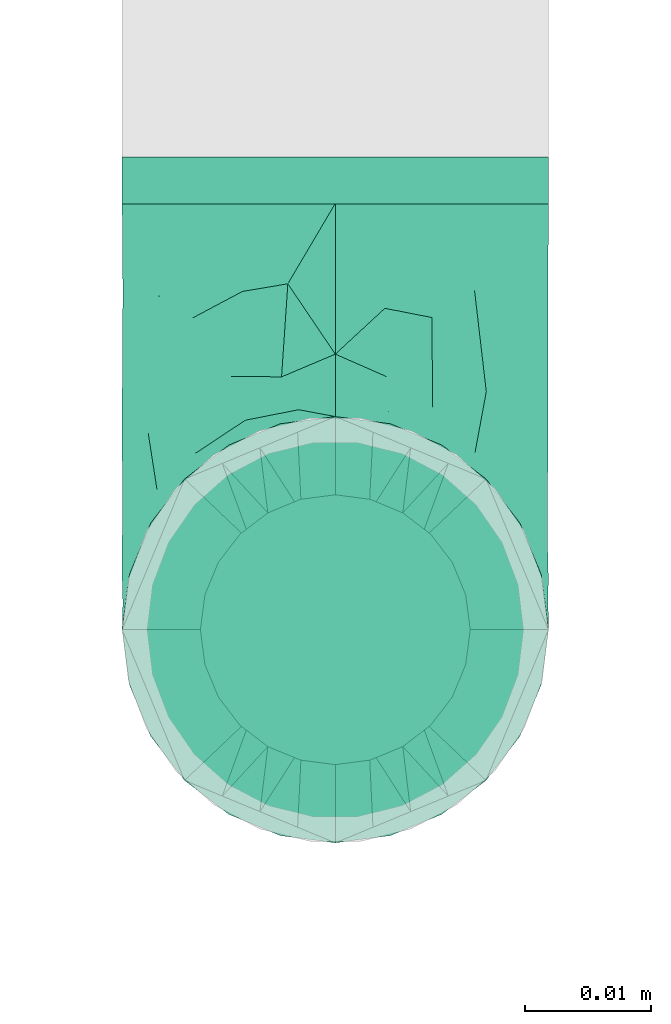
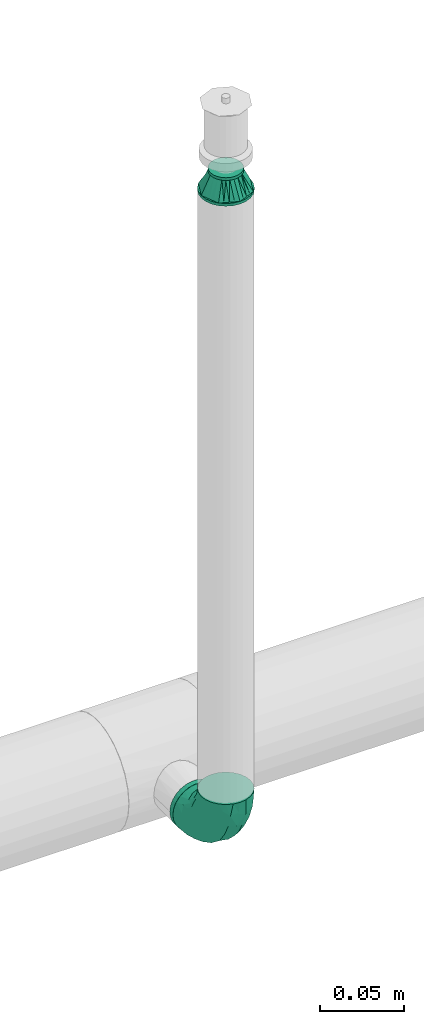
# One storey, part 112 of 157: 2 flow fittings, 1 flow segment.
"""IFC2X3 building model written with IfcOpenShell, lengths in millimetres."""

from ifc_helpers import new_model, entity, si_unit, converted_unit, derived_unit, direction, frame, origin_with_axes, origin_2d_with_axis, place, context, subcontext, project, spatial, hollow_circle, extrude, open_shell, surface_model, source, transform, mapped, type_object, element, save


model = new_model("IFC2X3")

# Units and contexts
model_context = context("Model", 3, precision=0.01, world=frame((0.0, 4.29681676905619e-09, 0.0)), true_north=direction((4.01073788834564e-13, 1.0)))
plan_context = context("Plan", 3, precision=0.01, world=frame((0.0, 4.29681676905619e-09, 0.0)), true_north=direction((4.01073788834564e-13, 1.0)))
body_context = subcontext(model_context, "Body", "Model", "MODEL_VIEW")
ifc_project = project(units=[converted_unit("PLANEANGLEUNIT", "DEGREE", entity("IfcPositiveLengthMeasure", 0.0174532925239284), si_unit("PLANEANGLEUNIT", "RADIAN"), dimensions=[0, 0, 0, 0, 0, 0, 0]), si_unit("AREAUNIT", "SQUARE_METRE"), si_unit("LENGTHUNIT", "METRE", prefix="MILLI"), si_unit("MASSUNIT", "GRAM", prefix="KILO"), si_unit("POWERUNIT", "WATT"), si_unit("PRESSUREUNIT", "PASCAL"), si_unit("FORCEUNIT", "NEWTON", prefix="KILO"), si_unit("ELECTRICCURRENTUNIT", "AMPERE"), si_unit("THERMODYNAMICTEMPERATUREUNIT", "DEGREE_CELSIUS"), si_unit("TIMEUNIT", "SECOND"), si_unit("VOLUMEUNIT", "CUBIC_METRE"), derived_unit("LINEARVELOCITYUNIT", [(si_unit("LENGTHUNIT", "METRE"), 1), (si_unit("TIMEUNIT", "SECOND"), -1)]), derived_unit("VOLUMETRICFLOWRATEUNIT", [(si_unit("VOLUMEUNIT", "CUBIC_METRE"), 1), (si_unit("TIMEUNIT", "SECOND"), -1)]), derived_unit("THERMALTRANSMITTANCEUNIT", [(si_unit("POWERUNIT", "WATT"), 1), (si_unit("THERMODYNAMICTEMPERATUREUNIT", "KELVIN"), -1), (si_unit("AREAUNIT", "SQUARE_METRE"), -1)])], contexts=[model_context, plan_context])

# Site, building, storey
site_placement = place(None, frame((0.0, -4.29681676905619e-09, 0.0), z_axis=(0.0, 0.0, 1.0), x_axis=(1.0, 0.0, 0.0)))
site = spatial("IfcSite", under=ifc_project, at=site_placement, CompositionType="ELEMENT")
building_placement = place(site_placement, frame((0.0, 4.29681676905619e-09, 0.0), z_axis=(0.0, 0.0, 1.0), x_axis=(1.0, 0.0, 0.0)))
building = spatial("IfcBuilding", under=site, at=building_placement, Name="mc-building", CompositionType="ELEMENT")
storey_placement = place(building_placement, frame((0.0, 0.0, 204000.0), z_axis=(0.0, 0.0, 1.0), x_axis=(1.0, 0.0, 0.0)))
storey = spatial("IfcBuildingStorey", under=building, at=storey_placement, Name="Nivå D", CompositionType="ELEMENT", Elevation=204000.0)

# Flow fittings
pipe_fitting_type_1 = type_object("IfcPipeFittingType", Name="magi_pipe_fe_elbow_short_001", PredefinedType="BEND")
shared_shape_1 = source(origin_with_axes(), body_context, "Body", "SurfaceModel", [
    surface_model("IfcShellBasedSurfaceModel", [(-33.8, 8.45, -14.63583), (-33.8, 4.37404, -16.32415), (-33.8, 11.9501, -11.9501), (-33.8, -11.9501, -11.9501), (-33.8, -14.63583, -8.45), (-33.8, -8.45, -14.63583), (-33.8, 0.0, -16.9), (-33.8, -4.37404, -16.32415), (-33.8, -4.37404, 16.32415), (-33.8, 0.0, 16.9), (-33.8, -8.45, 14.63583), (-33.8, 16.32415, -4.37404), (-33.8, 14.63583, -8.45), (-33.8, -16.32415, -4.37404), (-33.8, -16.9, 0.0), (-33.8, -16.32415, 4.37404), (-33.8, 11.9501, 11.9501), (-33.8, 14.63583, 8.45), (-33.8, 16.32415, 4.37404), (-33.8, 4.37404, 16.32415), (-33.8, 8.45, 14.63583), (-33.8, -14.63583, 8.45), (-33.8, -11.9501, 11.9501), (-33.8, 16.9, 0.0), (-11.9501, 33.8, -11.9501), (0.0, 33.8, -16.9), (-4.37404, 33.8, -16.32415), (-8.45, 33.8, -14.63583), (-14.63583, 33.8, -8.45), (-16.32415, 33.8, -4.37404), (14.63583, 33.8, -8.45), (8.45, 33.8, 14.63583), (16.32415, 33.8, -4.37404), (8.45, 33.8, -14.63583), (11.9501, 33.8, -11.9501), (4.37404, 33.8, -16.32415), (16.32415, 33.8, 4.37404), (16.9, 33.8, 0.0), (-11.9501, 33.8, 11.9501), (-16.32415, 33.8, 4.37404), (-14.63583, 33.8, 8.45), (-8.45, 33.8, 14.63583), (-4.37404, 33.8, 16.32415), (11.9501, 33.8, 11.9501), (14.63583, 33.8, 8.45), (0.0, 33.8, 16.9), (4.37404, 33.8, 16.32415), (-16.9, 33.8, 0.0), (-24.79389, -13.12945, 9.48721), (-22.19287, -9.75018, 12.59315), (-24.09897, -14.97035, 0.0), (-14.93934, -10.76256, 8.5297), (-22.46095, -14.75051, 5.27077), (14.75051, 22.46094, 5.27077), (11.9251, 13.23888, 4.33236), (13.04069, 14.39795, 0.0), (7.71387, 13.68847, 11.55891), (9.75018, 22.19287, 12.59315), (4.10169, 13.0571, 14.04018), (-24.84007, -6.39063, 15.2048), (-25.81779, -2.23879, 16.61097), (-23.66549, 2.59054, 16.87119), (-26.50418, 14.06512, 11.08152), (-24.21253, 17.66365, 7.72657), (-29.58514, 15.86957, 7.00283), (-6.17382, -7.5455, 0.0), (-13.23888, -11.9251, 4.33236), (-14.39795, -13.04069, 0.0), (-17.81434, 18.87373, 11.97104), (-6.30846, 29.15138, 15.82987), (-2.31622, 25.28002, 16.85849), (-29.23923, 10.23435, 13.77053), (-1.45439, -2.85688, 7.61475), (-0.28326, 0.34872, 10.09509), (-5.74484, -4.04709, 10.4122), (-4.41137, 11.31918, 16.59407), (-8.39727, 3.10034, 15.7812), (-1.72649, 9.1306, 15.53089), (-17.39909, 24.75344, 7.64977), (-26.19233, 20.0512, 0.0), (-28.14518, 17.29657, 4.25857), (-26.05147, 6.6281, 15.96447), (-5.87354, 16.61944, 16.86968), (-12.51807, 12.51807, 16.48937), (-10.06312, 7.38516, 16.81295), (-3.01882, 3.01882, 13.81718), (-13.0571, -4.10169, 14.04018), (-16.82553, -0.15166, 16.38038), (10.76256, 14.93934, 8.5297), (13.12945, 24.79389, 9.48721), (6.39063, 24.84007, 15.2048), (2.23879, 25.81779, 16.61097), (-13.68847, -7.71387, 11.55891), (14.97035, 24.09897, 0.0), (-7.30894, 22.89991, 16.09489), (-10.67958, 26.17414, 14.008), (-12.78295, 18.26924, 15.06066), (-13.88562, 22.45231, 12.93244), (-18.04944, 15.16501, 14.04434), (-23.11658, 20.08178, 4.02986), (-21.84989, 21.84989, 0.0), (-18.55817, 25.48277, 3.93065), (-13.95142, 26.94732, 11.03289), (-18.57098, 7.23906, 16.59756), (-16.58335, 4.14122, 16.89279), (-17.96666, 11.46709, 15.63151), (-9.84453, 17.54304, 16.18938), (0.15166, 16.82553, 16.38038), (-23.27207, 11.47201, 14.23154), (3.84842, 5.86994, 10.70473), (-8.0212, -7.54413, 7.93275), (1.00345, -2.19508, 4.57414), (5.13203, 3.01004, 5.90201), (5.24161, 1.7543, 2.53265), (8.70457, 7.04947, 3.99182), (-20.0512, 26.19233, 0.0), (8.4852, 8.76699, 7.09296), (-4.55488, -6.72064, 4.90681), (2.05031, -2.05031, 0.0), (7.5455, 6.17382, 0.0), (-26.75399, 2.1369, -16.845), (-14.61995, 24.73803, -11.27736), (-28.45274, -13.45335, -9.81895), (-26.00469, 6.63555, -15.96645), (-23.06726, 20.04573, -4.26202), (-13.80647, -4.26506, -14.17873), (-14.67501, -0.21081, -16.07388), (-6.7902, -0.2828, -13.8478), (-24.53586, 11.08096, -14.13417), (-26.72048, 14.00837, -11.05776), (10.0967, 24.44989, -12.75976), (5.83237, 21.40218, -15.03047), (6.66249, 28.54238, -15.38093), (-20.38182, 15.48705, -12.74596), (12.53268, 21.23441, -9.15363), (12.54494, 15.67504, -5.54878), (9.7522, 12.89279, -8.66343), (-15.65186, 19.64213, -13.01327), (-12.03528, 20.66498, -14.67665), (-15.61907, 15.61906, -14.83879), (-25.56551, -15.26206, 0.0), (-24.65452, -15.12934, -5.50955), (13.45335, 28.45274, -9.81895), (15.12934, 24.65452, -5.50955), (-7.35442, -8.31014, -5.65563), (-15.67504, -12.54494, -5.54878), (-24.44989, -10.0967, -12.75976), (0.16522, 0.41303, -9.71728), (-5.70658, -5.33066, -8.89288), (-5.13869, -2.37198, -11.53565), (-21.23441, -12.53268, -9.15363), (0.71146, 7.93863, -14.09382), (0.21081, 14.67501, -16.07388), (3.49291, 14.42772, -14.76381), (-24.89911, -2.13088, -16.591), (-28.54238, -6.66249, -15.38093), (-18.44386, -7.71663, -13.26957), (2.13088, 24.89911, -16.591), (-28.64342, 17.44413, -2.89318), (1.70017, -1.28722, -5.09504), (-16.57067, 26.81947, -7.36596), (-17.69055, 27.4263, -3.76405), (-12.89279, -9.7522, -8.66343), (-5.96611, 5.96611, -15.95814), (-20.53709, 20.09345, -8.28985), (-2.1369, 26.75399, -16.845), (-6.89872, 24.58781, -16.02578), (-10.60739, 26.53157, -13.98044), (-21.40218, -5.83237, -15.03047), (2.93192, 5.89627, -11.55917), (6.89393, 12.61842, -11.82233), (5.58056, 5.95325, -8.79455), (-3.99512, 18.61798, -16.89635), (8.31014, 7.35442, -5.65563), (-9.1383, 9.86148, -16.89041), (-9.99983, 16.02119, -16.39699), (-16.68576, 9.78031, -16.34199), (-27.01915, 16.61158, -7.12979), (15.26206, 25.56551, 0.0), (-18.61798, 3.99512, -16.89635), (-19.37495, 27.82495, 0.0), (-12.61842, -6.89393, -11.82233), (-18.84705, 19.14018, -10.96545)], [open_shell([[[0, 1, 2]], [[3, 4, 5]], [[6, 7, 5]], [[8, 9, 10]], [[1, 6, 2]], [[11, 12, 2]], [[4, 2, 6]], [[2, 13, 10]], [[5, 4, 6]], [[2, 4, 13]], [[14, 15, 13]], [[11, 2, 16]], [[11, 17, 18]], [[11, 16, 17]], [[19, 20, 16]], [[16, 2, 10]], [[19, 16, 10]], [[21, 22, 15]], [[22, 13, 15]], [[22, 10, 13]], [[10, 9, 19]], [[11, 18, 23]], [[24, 25, 26]], [[24, 26, 27]], [[24, 28, 29]], [[25, 24, 30]], [[31, 32, 24]], [[33, 30, 34]], [[33, 35, 25]], [[25, 30, 33]], [[32, 30, 24]], [[32, 36, 37]], [[38, 24, 29]], [[39, 40, 29]], [[40, 38, 29]], [[38, 41, 42]], [[38, 31, 24]], [[31, 38, 42]], [[36, 43, 44]], [[36, 32, 43]], [[31, 45, 46]], [[32, 31, 43]], [[42, 45, 31]], [[39, 29, 47]], [[22, 48, 49]], [[15, 14, 50]], [[51, 48, 52]], [[53, 54, 55]], [[48, 22, 21]], [[15, 52, 21]], [[56, 57, 58]], [[49, 10, 22]], [[49, 59, 10]], [[9, 60, 61]], [[62, 63, 64]], [[65, 66, 67]], [[57, 43, 31]], [[62, 68, 63]], [[42, 69, 70]], [[20, 71, 16]], [[8, 60, 9]], [[72, 73, 74]], [[75, 76, 77]], [[16, 62, 17]], [[40, 39, 78]], [[79, 23, 80]], [[64, 18, 17]], [[9, 61, 19]], [[19, 81, 20]], [[82, 83, 84]], [[74, 85, 86]], [[59, 86, 87]], [[88, 89, 57]], [[90, 31, 46]], [[44, 53, 36]], [[46, 45, 91]], [[54, 53, 88]], [[44, 89, 53]], [[92, 86, 49]], [[89, 44, 43]], [[10, 59, 8]], [[53, 55, 93]], [[93, 36, 53]], [[66, 52, 67]], [[94, 82, 70]], [[95, 96, 94]], [[97, 98, 96]], [[79, 99, 100]], [[41, 38, 95]], [[101, 100, 99]], [[68, 78, 63]], [[42, 41, 69]], [[23, 18, 80]], [[95, 94, 69]], [[78, 101, 99]], [[38, 102, 95]], [[70, 45, 42]], [[97, 95, 102]], [[15, 50, 52]], [[90, 57, 31]], [[57, 90, 58]], [[81, 19, 61]], [[103, 104, 84]], [[105, 81, 103]], [[38, 40, 102]], [[106, 96, 83]], [[94, 106, 82]], [[91, 70, 107]], [[71, 62, 16]], [[62, 108, 98]], [[86, 59, 49]], [[67, 52, 50]], [[60, 59, 87]], [[92, 49, 51]], [[86, 85, 76]], [[91, 90, 46]], [[37, 36, 93]], [[107, 77, 58]], [[107, 58, 90]], [[58, 85, 109]], [[110, 74, 92]], [[72, 74, 110]], [[66, 51, 52]], [[72, 111, 112]], [[113, 114, 112]], [[56, 88, 57]], [[52, 48, 21]], [[49, 48, 51]], [[57, 89, 43]], [[53, 89, 88]], [[103, 81, 61]], [[71, 81, 108]], [[18, 64, 80]], [[63, 78, 99]], [[47, 115, 101]], [[101, 115, 100]], [[40, 78, 102]], [[68, 102, 78]], [[97, 96, 95]], [[105, 98, 108]], [[103, 84, 83]], [[107, 70, 82]], [[76, 84, 87]], [[82, 84, 75]], [[70, 91, 45]], [[90, 91, 107]], [[59, 60, 8]], [[61, 60, 87]], [[73, 85, 74]], [[109, 112, 116]], [[103, 61, 104]], [[105, 103, 83]], [[96, 105, 83]], [[81, 105, 108]], [[96, 98, 105]], [[62, 98, 68]], [[61, 87, 104]], [[87, 84, 104]], [[86, 76, 87]], [[77, 76, 85]], [[58, 77, 85]], [[75, 77, 107]], [[82, 75, 107]], [[76, 75, 84]], [[81, 71, 20]], [[62, 71, 108]], [[95, 69, 41]], [[70, 69, 94]], [[62, 64, 17]], [[80, 63, 99]], [[63, 80, 64]], [[80, 99, 79]], [[66, 65, 117]], [[110, 66, 117]], [[112, 114, 116]], [[118, 117, 65]], [[110, 92, 51]], [[112, 111, 113]], [[119, 55, 54]], [[74, 86, 92]], [[58, 109, 56]], [[116, 56, 109]], [[66, 110, 51]], [[72, 110, 117]], [[111, 72, 117]], [[73, 112, 109]], [[117, 118, 111]], [[113, 111, 118]], [[118, 119, 113]], [[114, 119, 54]], [[119, 114, 113]], [[116, 54, 88]], [[54, 116, 114]], [[116, 88, 56]], [[112, 73, 72]], [[85, 73, 109]], [[78, 39, 101]], [[47, 101, 39]], [[102, 68, 97]], [[97, 68, 98]], [[82, 106, 83]], [[94, 96, 106]], [[1, 120, 6]], [[28, 24, 121]], [[3, 122, 4]], [[0, 123, 1]], [[100, 124, 79]], [[125, 126, 127]], [[128, 2, 129]], [[130, 131, 132]], [[128, 129, 133]], [[134, 135, 136]], [[137, 138, 139]], [[128, 0, 2]], [[67, 140, 141]], [[134, 142, 143]], [[141, 13, 4]], [[144, 65, 145]], [[146, 3, 5]], [[147, 148, 149]], [[145, 141, 150]], [[151, 152, 153]], [[154, 7, 6]], [[5, 155, 146]], [[150, 146, 156]], [[155, 5, 7]], [[143, 135, 134]], [[35, 157, 25]], [[23, 79, 158]], [[148, 159, 144]], [[160, 161, 29]], [[145, 162, 144]], [[163, 152, 151]], [[29, 28, 160]], [[121, 164, 160]], [[33, 34, 130]], [[25, 165, 26]], [[26, 165, 166]], [[142, 34, 30]], [[24, 27, 167]], [[124, 161, 164]], [[157, 35, 132]], [[155, 154, 168]], [[123, 0, 128]], [[169, 170, 171]], [[172, 157, 152]], [[26, 166, 27]], [[132, 35, 33]], [[142, 130, 34]], [[168, 154, 126]], [[136, 135, 173]], [[133, 137, 139]], [[2, 12, 129]], [[170, 131, 130]], [[30, 32, 143]], [[172, 174, 175]], [[176, 123, 128]], [[158, 177, 11]], [[135, 55, 119]], [[167, 27, 166]], [[175, 166, 172]], [[137, 167, 138]], [[122, 141, 4]], [[140, 14, 13]], [[32, 37, 178]], [[170, 130, 134]], [[152, 157, 131]], [[165, 157, 172]], [[153, 170, 151]], [[152, 163, 174]], [[168, 125, 156]], [[122, 146, 150]], [[120, 154, 6]], [[179, 174, 126]], [[179, 126, 154]], [[126, 163, 127]], [[162, 145, 150]], [[140, 13, 141]], [[32, 178, 143]], [[55, 143, 178]], [[177, 129, 12]], [[128, 133, 139]], [[176, 128, 139]], [[120, 123, 179]], [[121, 160, 28]], [[161, 100, 180]], [[166, 175, 138]], [[121, 24, 167]], [[161, 47, 29]], [[79, 124, 158]], [[124, 164, 177]], [[161, 124, 100]], [[136, 171, 170]], [[127, 163, 151]], [[147, 171, 159]], [[148, 144, 162]], [[127, 151, 169]], [[127, 181, 125]], [[129, 177, 164]], [[12, 11, 177]], [[159, 65, 144]], [[67, 141, 145]], [[143, 55, 135]], [[135, 119, 173]], [[123, 120, 1]], [[154, 120, 179]], [[157, 165, 25]], [[166, 165, 172]], [[172, 152, 174]], [[176, 139, 175]], [[126, 174, 163]], [[176, 174, 179]], [[174, 176, 175]], [[123, 176, 179]], [[150, 181, 162]], [[127, 149, 181]], [[181, 148, 162]], [[159, 148, 147]], [[171, 136, 173]], [[170, 134, 136]], [[159, 171, 173]], [[171, 147, 169]], [[169, 147, 149]], [[151, 170, 169]], [[164, 182, 129]], [[182, 121, 137]], [[181, 149, 148]], [[169, 149, 127]], [[182, 137, 133]], [[167, 137, 121]], [[166, 138, 167]], [[175, 139, 138]], [[129, 182, 133]], [[121, 182, 164]], [[161, 160, 164]], [[47, 161, 180]], [[177, 158, 124]], [[23, 158, 11]], [[130, 132, 33]], [[157, 132, 131]], [[143, 142, 30]], [[130, 142, 134]], [[154, 155, 7]], [[146, 155, 168]], [[146, 122, 3]], [[141, 122, 150]], [[152, 131, 153]], [[159, 119, 118]], [[67, 145, 65]], [[170, 153, 131]], [[119, 159, 173]], [[159, 118, 65]], [[156, 125, 181]], [[126, 125, 168]], [[150, 156, 181]], [[168, 156, 146]]])]),
])
flow_fitting_1_placement = place(storey_placement, frame((526440.35, 413944.735, 2690.0), z_axis=(1.0, 0.0, 0.0), x_axis=(0.0, 0.0, -1.0)))
element("IfcFlowFitting", 1, at=flow_fitting_1_placement, inside=storey, type_object=pipe_fitting_type_1, Name="magi_pipe_fe_elbow_short_001", context=body_context, shape_type="MappedRepresentation", body=[
    mapped(shared_shape_1, transform((0.0, 0.0, 0.0), scale=1.0)),
])
pipe_fitting_type_2 = type_object("IfcPipeFittingType", Name="magi_pipe_fe_reducer_centric_short_NOR", PredefinedType="TRANSITION")
shared_shape_2 = source(origin_with_axes(), body_context, "Body", "SurfaceModel", [
    surface_model("IfcShellBasedSurfaceModel", [(-2.0, -7.56604, -7.56604), (-2.0, -10.33541, -2.76936), (-2.0, -5.35, -9.26647), (-2.0, 5.35, -9.26647), (-2.0, 10.33541, -2.76936), (-2.0, 7.56604, -7.56604), (12.4, 11.9501, 11.9501), (12.4, 0.0, 16.9), (12.4, 11.9501, -11.9501), (12.4, 16.9, 0.0), (0.0, -10.7, 0.0), (0.0, -5.35, 9.26647), (0.0, -5.35, -9.26647), (0.0, 10.7, 0.0), (12.4, 15.66253, -2.98753), (12.4, 8.96258, -13.18758), (0.0, 6.6875, -6.94985), (12.4, -15.66253, -2.98753), (12.4, -16.9, 0.0), (12.4, 5.97505, -14.42505), (0.0, 5.35, -9.26647), (12.4, 14.42505, -5.97505), (0.0, 8.025, -4.63324), (0.0, 9.3625, -2.31662), (0.0, -9.3625, -2.31662), (0.0, -8.025, -4.63324), (12.4, -14.42505, -5.97505), (12.4, 13.18758, -8.96258), (12.4, -13.18758, -8.96258), (12.4, -11.9501, -11.9501), (0.0, -6.6875, -6.94985), (12.4, -8.96258, -13.18758), (12.4, -5.97505, -14.42505), (12.4, -15.66253, 2.98753), (12.4, -8.96258, 13.18758), (0.0, -6.6875, 6.94985), (12.4, -11.9501, 11.9501), (12.4, 15.66253, 2.98753), (12.4, -5.97505, 14.42505), (12.4, -14.42505, 5.97505), (0.0, -8.025, 4.63324), (0.0, -9.3625, 2.31662), (0.0, 9.3625, 2.31662), (0.0, 8.025, 4.63324), (12.4, 14.42505, 5.97505), (12.4, -13.18758, 8.96258), (12.4, 13.18758, 8.96258), (0.0, 6.6875, 6.94985), (12.4, 8.96258, 13.18758), (0.0, 5.35, 9.26647), (12.4, 5.97505, 14.42505), (14.4, 4.37404, -16.32415), (14.4, 8.45, -14.63583), (14.4, 11.9501, -11.9501), (14.4, -8.45, -14.63583), (14.4, 16.32415, -4.37404), (14.4, 16.32415, 4.37404), (14.4, 14.63583, -8.45), (14.4, 0.0, -16.9), (14.4, -4.37404, -16.32415), (14.4, -11.9501, -11.9501), (14.4, -16.32415, -4.37404), (14.4, -14.63583, -8.45), (14.4, -16.32415, 4.37404), (14.4, 16.9, 0.0), (14.4, 14.63583, 8.45), (14.4, 11.9501, 11.9501), (14.4, 4.37404, 16.32415), (14.4, 8.45, 14.63583), (14.4, 0.0, 16.9), (14.4, -14.63583, 8.45), (14.4, -16.9, 0.0), (14.4, -8.45, 14.63583), (14.4, -11.9501, 11.9501), (14.4, -4.37404, 16.32415), (12.4, 4.37404, 16.32415), (12.4, -14.63583, 8.45), (12.4, 16.32415, 4.37404), (12.4, 8.45, 14.63583), (12.4, 14.63583, 8.45), (12.4, -8.45, 14.63583), (12.4, -4.37404, 16.32415), (12.4, -16.32415, 4.37404), (12.4, -16.32415, -4.37404), (12.4, -8.45, -14.63583), (12.4, 16.32415, -4.37404), (12.4, 14.63583, -8.45), (12.4, 8.45, -14.63583), (12.4, 4.37404, -16.32415), (12.4, 0.0, -16.9), (12.4, -14.63583, -8.45), (12.4, -4.37404, -16.32415), (-2.0, 2.76936, 10.33541), (-2.0, 0.0, 10.7), (-2.0, 5.35, 9.26647), (-2.0, 7.56604, 7.56604), (-2.0, 9.26647, 5.35), (-2.0, 10.33541, 2.76936), (-2.0, -10.33541, 2.76936), (-2.0, -2.76936, 10.33541), (-2.0, -7.56604, 7.56604), (-2.0, -5.35, 9.26647), (-2.0, -9.26647, 5.35), (-2.0, -10.7, 0.0), (-2.0, 9.26647, -5.35), (-2.0, 2.76936, -10.33541), (-2.0, -9.26647, -5.35), (-2.0, 0.0, -10.7), (-2.0, -2.76936, -10.33541), (-2.0, 10.7, 0.0), (0.0, 0.0, -10.7), (0.0, 2.76936, -10.33541), (0.0, 10.33541, -2.76936), (0.0, 7.56604, -7.56604), (0.0, -10.33541, -2.76936), (0.0, 9.26647, -5.35), (0.0, 0.0, 10.7), (0.0, -2.76936, -10.33541), (0.0, -7.56604, -7.56604), (0.0, -9.26647, -5.35), (0.0, 10.33541, 2.76936), (0.0, 9.26647, 5.35), (0.0, 7.56604, 7.56604), (0.0, 2.76936, 10.33541), (0.0, -7.56604, 7.56604), (0.0, -10.33541, 2.76936), (0.0, -9.26647, 5.35), (0.0, -2.76936, 10.33541), (0.0, 2.675, -9.26647), (0.0, -2.675, -9.26647), (12.4, 2.98753, -15.66253), (0.0, 0.0, -9.26647), (12.4, -2.98753, -15.66253), (0.0, -2.675, 9.26647), (0.0, 2.675, 9.26647), (12.4, -2.98753, 15.66253), (0.0, 0.0, 9.26647), (12.4, 2.98753, 15.66253)], [open_shell([[[0, 1, 2]], [[3, 4, 5]], [[6, 7, 8]], [[8, 9, 6]], [[10, 11, 12]], [[13, 9, 14]], [[15, 16, 8]], [[17, 18, 10]], [[15, 19, 20]], [[21, 22, 23]], [[24, 25, 26]], [[22, 21, 27]], [[28, 26, 25]], [[29, 30, 31]], [[12, 32, 31]], [[10, 18, 33]], [[34, 35, 36]], [[37, 9, 13]], [[34, 38, 11]], [[39, 40, 41]], [[42, 43, 44]], [[40, 39, 45]], [[46, 44, 43]], [[6, 47, 48]], [[49, 50, 48]], [[51, 52, 53]], [[54, 51, 53]], [[53, 55, 56]], [[55, 53, 57]], [[53, 56, 54]], [[58, 54, 59]], [[58, 51, 54]], [[60, 61, 62]], [[61, 60, 54]], [[54, 63, 61]], [[56, 55, 64]], [[56, 65, 66]], [[56, 66, 67]], [[67, 63, 54]], [[67, 66, 68]], [[63, 67, 69]], [[69, 70, 63]], [[71, 61, 63]], [[70, 72, 73]], [[70, 69, 72]], [[72, 69, 74]], [[54, 56, 67]], [[75, 76, 7]], [[77, 75, 78]], [[6, 79, 77]], [[6, 77, 78]], [[76, 75, 77]], [[80, 76, 36]], [[80, 81, 7]], [[7, 76, 80]], [[82, 76, 77]], [[82, 83, 18]], [[82, 77, 84]], [[77, 85, 8]], [[8, 85, 86]], [[8, 87, 88]], [[84, 77, 8]], [[88, 89, 8]], [[83, 29, 90]], [[29, 83, 84]], [[84, 89, 91]], [[83, 82, 84]], [[8, 89, 84]], [[85, 77, 9]], [[83, 61, 18]], [[90, 62, 83]], [[54, 29, 84]], [[90, 29, 60]], [[59, 84, 91]], [[83, 62, 61]], [[61, 71, 18]], [[59, 54, 84]], [[60, 29, 54]], [[60, 62, 90]], [[58, 59, 91]], [[91, 89, 58]], [[88, 51, 89]], [[87, 52, 88]], [[57, 8, 86]], [[87, 8, 53]], [[55, 86, 85]], [[87, 53, 52]], [[52, 51, 88]], [[64, 55, 85]], [[57, 86, 55]], [[57, 53, 8]], [[9, 64, 85]], [[89, 51, 58]], [[77, 56, 9]], [[79, 65, 77]], [[68, 6, 78]], [[79, 6, 66]], [[67, 78, 75]], [[77, 65, 56]], [[56, 64, 9]], [[67, 68, 78]], [[66, 6, 68]], [[66, 65, 79]], [[69, 67, 75]], [[75, 7, 69]], [[81, 74, 7]], [[80, 72, 81]], [[70, 36, 76]], [[80, 36, 73]], [[63, 76, 82]], [[80, 73, 72]], [[72, 74, 81]], [[71, 63, 82]], [[70, 76, 63]], [[70, 73, 36]], [[18, 71, 82]], [[7, 74, 69]], [[92, 1, 93]], [[94, 1, 92]], [[95, 96, 97]], [[95, 97, 94]], [[98, 93, 1]], [[99, 100, 101]], [[99, 93, 100]], [[100, 98, 102]], [[93, 98, 100]], [[98, 1, 103]], [[94, 97, 1]], [[1, 97, 4]], [[5, 4, 104]], [[4, 3, 1]], [[105, 1, 3]], [[1, 0, 106]], [[2, 107, 108]], [[2, 1, 105]], [[105, 107, 2]], [[4, 97, 109]], [[20, 110, 111]], [[112, 20, 113]], [[114, 20, 112]], [[112, 113, 115]], [[116, 114, 112]], [[110, 12, 117]], [[110, 20, 12]], [[118, 114, 119]], [[114, 118, 12]], [[20, 114, 12]], [[112, 13, 120]], [[120, 121, 122]], [[120, 122, 123]], [[116, 112, 123]], [[123, 122, 49]], [[116, 124, 114]], [[125, 124, 126]], [[10, 114, 125]], [[124, 127, 11]], [[125, 114, 124]], [[127, 124, 116]], [[123, 112, 120]], [[1, 114, 103]], [[106, 119, 1]], [[12, 0, 2]], [[106, 0, 118]], [[117, 2, 108]], [[1, 119, 114]], [[114, 10, 103]], [[117, 12, 2]], [[118, 0, 12]], [[118, 119, 106]], [[110, 117, 108]], [[108, 107, 110]], [[105, 111, 107]], [[3, 20, 105]], [[115, 5, 104]], [[3, 5, 113]], [[112, 104, 4]], [[3, 113, 20]], [[20, 111, 105]], [[13, 112, 4]], [[115, 104, 112]], [[115, 113, 5]], [[109, 13, 4]], [[107, 111, 110]], [[97, 120, 109]], [[96, 121, 97]], [[49, 95, 94]], [[96, 95, 122]], [[123, 94, 92]], [[97, 121, 120]], [[120, 13, 109]], [[123, 49, 94]], [[122, 95, 49]], [[122, 121, 96]], [[116, 123, 92]], [[92, 93, 116]], [[99, 127, 93]], [[101, 11, 99]], [[126, 100, 102]], [[101, 100, 124]], [[125, 102, 98]], [[101, 124, 11]], [[11, 127, 99]], [[10, 125, 98]], [[126, 102, 125]], [[126, 124, 100]], [[103, 10, 98]], [[93, 127, 116]], [[18, 7, 36]], [[18, 29, 8]], [[89, 8, 29]], [[18, 8, 7]], [[13, 11, 49]], [[13, 20, 12]], [[13, 12, 11]], [[24, 26, 17]], [[10, 24, 17]], [[16, 15, 20]], [[30, 12, 31]], [[23, 14, 21]], [[19, 128, 20]], [[27, 8, 16]], [[32, 12, 129]], [[30, 28, 25]], [[130, 131, 128]], [[129, 132, 32]], [[16, 22, 27]], [[13, 14, 23]], [[128, 19, 130]], [[130, 89, 131]], [[131, 132, 129]], [[89, 132, 131]], [[28, 30, 29]], [[42, 44, 37]], [[13, 42, 37]], [[35, 34, 11]], [[47, 49, 48]], [[41, 33, 39]], [[38, 133, 11]], [[45, 36, 35]], [[50, 49, 134]], [[47, 46, 43]], [[135, 136, 133]], [[134, 137, 50]], [[35, 40, 45]], [[10, 33, 41]], [[133, 38, 135]], [[135, 7, 136]], [[136, 137, 134]], [[7, 137, 136]], [[46, 47, 6]]])]),
])
flow_fitting_2_placement = place(storey_placement, frame((526440.35, 413944.735, 3172.54800000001), z_axis=(0.0, 1.0, 0.0), x_axis=(0.0, 0.0, -1.0)))
element("IfcFlowFitting", 2, at=flow_fitting_2_placement, inside=storey, type_object=pipe_fitting_type_2, Name="magi_pipe_fe_reducer_centric_short_NOR", context=body_context, shape_type="MappedRepresentation", body=[
    mapped(shared_shape_2, transform((0.0, 0.0, 0.0), scale=1.0)),
])

# Flow segment
pipe_segment_type = type_object("IfcPipeSegmentType", Name="Stålrør normaltykke", PredefinedType="RIGIDSEGMENT")
shared_shape_3 = source(origin_with_axes(), body_context, "Body", "SweptSolid", [
    extrude(hollow_circle(Radius=16.9, WallThickness=2.0, at=origin_2d_with_axis()), frame((0.0, 0.0, 0.0), z_axis=(1.0, 0.0, 0.0), x_axis=(0.0, 1.0, 0.0)), (0.0, 0.0, 1.0), 3.7),
])
flow_segment_placement = place(storey_placement, frame((526440.35, 413982.20389, 2690.0), z_axis=(0.0, 0.0, 1.0), x_axis=(0.0, -1.0, 0.0)))
element("IfcFlowSegment", 3, at=flow_segment_placement, inside=storey, type_object=pipe_segment_type, Name="Stålrør normaltykke", context=body_context, shape_type="MappedRepresentation", body=[
    mapped(shared_shape_3, transform((0.0, 0.0, 0.0), scale=1.0)),
])

save(model, "model.ifc")
